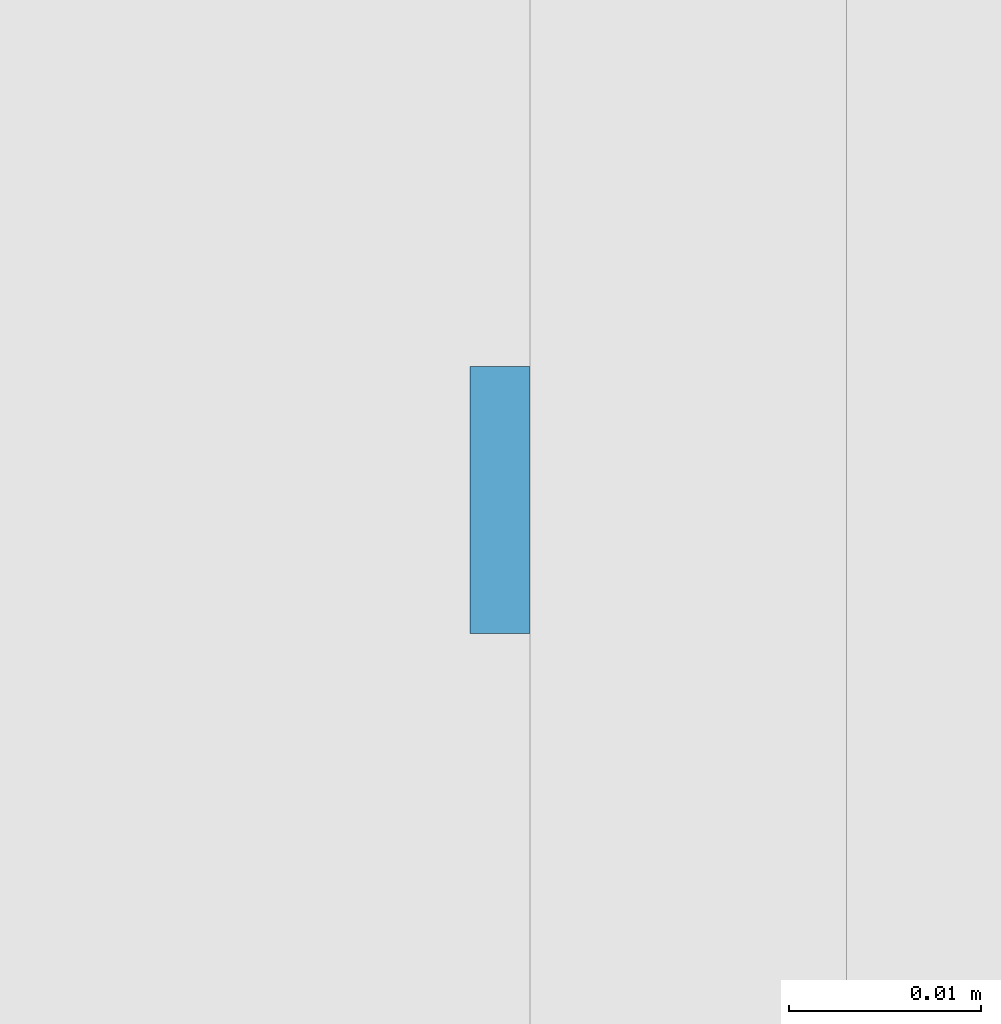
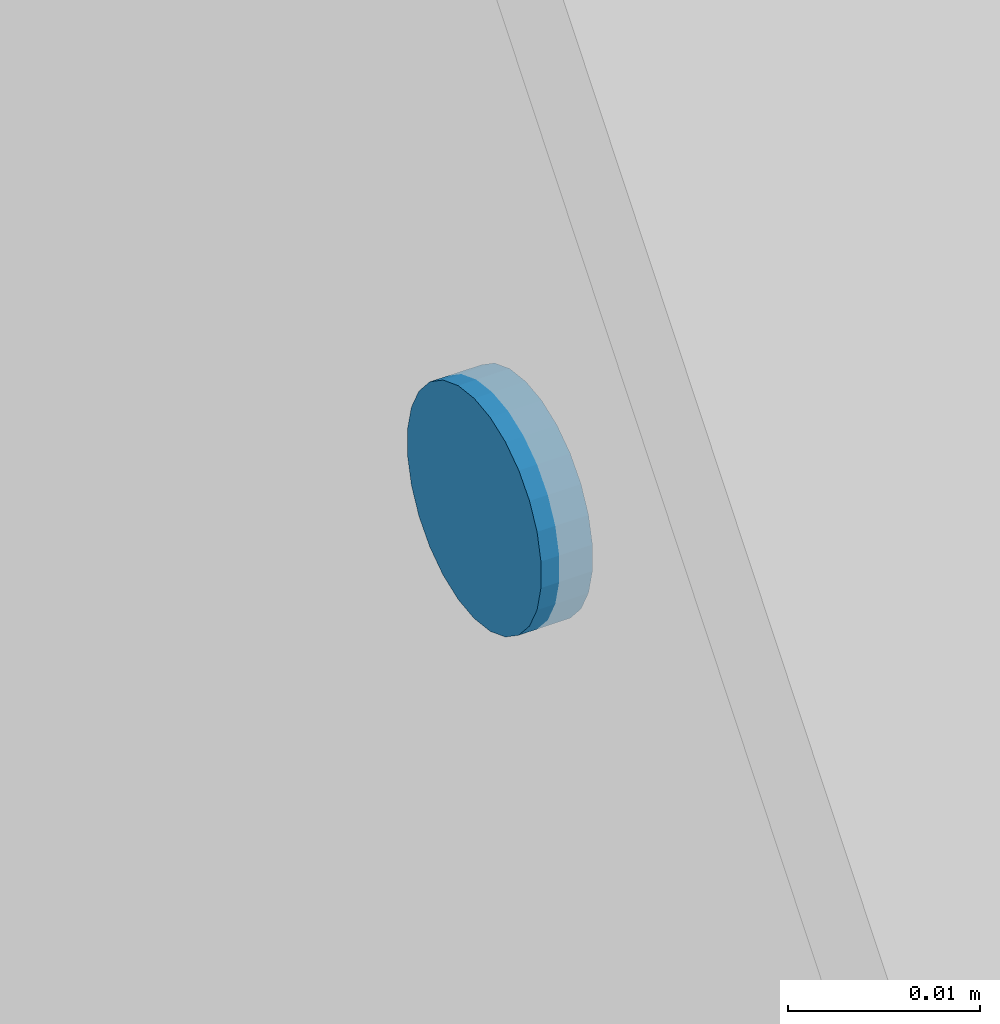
# One storey, part 228 of 362: 1 mechanical fastener.
"""IFC2X3 building model written with IfcOpenShell, lengths in millimetres."""

import ifcopenshell
import ifcopenshell.guid

model = None  # the IFC model being written
_history = None  # IfcOwnerHistory: only IFC2X3 demands one
_inside = {}  # id of a spatial element -> (the spatial element, [elements in it])
_under = {}  # id of a project, library or spatial element -> (it, [spatial elements below it])
_declared = {}  # id of a project -> (the project, [libraries it declares])
_typed = {}  # id of a type object -> (the type object, [elements of that type])
_made_of = {}  # id of a material, layer set ... -> (it, [elements and type objects made of it])


def new_model(schema):
    """Start an empty IFC model of exactly this schema.

    Asked for "IFC4X3", IfcOpenShell would pick the latest addendum, in which some entities
    have other attributes; the version numbers below select the first issue.
    IFC2X3 requires an IfcOwnerHistory on every rooted entity: one is made here for all.
    """
    global model, _history
    if schema == "IFC4X3":
        model = ifcopenshell.file(schema_version=(4, 3, 0, 0))
    else:
        model = ifcopenshell.file(schema=schema)
    _inside.clear()
    _under.clear()
    _declared.clear()
    _typed.clear()
    _made_of.clear()
    _history = None
    if model.schema == "IFC2X3":
        org = make("IfcOrganization", Name="unknown")
        user = make(
            "IfcPersonAndOrganization",
            ThePerson=make("IfcPerson", FamilyName="unknown"),
            TheOrganization=org,
        )
        app = make(
            "IfcApplication",
            ApplicationDeveloper=org,
            Version="unknown",
            ApplicationFullName="unknown",
            ApplicationIdentifier="unknown",
        )
        _history = make(
            "IfcOwnerHistory",
            OwningUser=user,
            OwningApplication=app,
            ChangeAction="ADDED",
            CreationDate=0,
        )
    return model


def make(cls, **values):
    """One entity of the class cls with the attributes given. An attribute that is None is left unset."""
    return model.create_entity(
        cls, **{name: value for name, value in values.items() if value is not None}
    )


def rooted(cls, **values):
    """An entity with a GlobalId (a new one), such as an element, a storey or a relation."""
    return make(cls, GlobalId=ifcopenshell.guid.new(), OwnerHistory=_history, **values)


def si_unit(unit_type, name, prefix=None):
    """IfcSIUnit, for example si_unit("LENGTHUNIT", "METRE", prefix="MILLI")."""
    return make("IfcSIUnit", UnitType=unit_type, Prefix=prefix, Name=name)


def assignment(units):
    """IfcUnitAssignment: the units of a project."""
    return None if units is None else make("IfcUnitAssignment", Units=units)


def point(xyz):
    """IfcCartesianPoint."""
    return None if xyz is None else make("IfcCartesianPoint", Coordinates=xyz)


def direction(xyz):
    """IfcDirection."""
    return None if xyz is None else make("IfcDirection", DirectionRatios=xyz)


def frame(location, z_axis=None, x_axis=None):
    """IfcAxis2Placement3D, a coordinate frame: its origin and axes. An axis left out is left unset."""
    return make(
        "IfcAxis2Placement3D",
        Location=point(location),
        Axis=direction(z_axis),
        RefDirection=direction(x_axis),
    )


def frame_2d(location, x_axis=None):
    """IfcAxis2Placement2D, a coordinate frame in the plane: its origin and x axis."""
    return make(
        "IfcAxis2Placement2D", Location=point(location), RefDirection=direction(x_axis)
    )


def origin_with_axes():
    """The frame at (0, 0, 0) with the z axis (0, 0, 1) and the x axis (1, 0, 0) written out."""
    return frame((0.0, 0.0, 0.0), z_axis=(0.0, 0.0, 1.0), x_axis=(1.0, 0.0, 0.0))


def origin_2d_with_axis():
    """The frame at (0, 0) in the plane with the x axis (1, 0) written out."""
    return frame_2d((0.0, 0.0), x_axis=(1.0, 0.0))


def place(relative_to, where):
    """IfcLocalPlacement: puts the frame where relative to a parent placement (None: the world)."""
    return make(
        "IfcLocalPlacement", PlacementRelTo=relative_to, RelativePlacement=where
    )


def context(
    kind, dimensions, precision=None, world=None, true_north=None, identifier=None
):
    """IfcGeometricRepresentationContext, for example the 3D "Model" context."""
    return make(
        "IfcGeometricRepresentationContext",
        ContextIdentifier=identifier,
        ContextType=kind,
        CoordinateSpaceDimension=dimensions,
        Precision=precision,
        WorldCoordinateSystem=world,
        TrueNorth=true_north,
    )


def subcontext(parent, identifier, kind, view, scale=None):
    """IfcGeometricRepresentationSubContext, for example "Body" below "Model"."""
    return make(
        "IfcGeometricRepresentationSubContext",
        ContextIdentifier=identifier,
        ContextType=kind,
        ParentContext=parent,
        TargetScale=scale,
        TargetView=view,
    )


def project(units=None, contexts=None):
    """IfcProject with its units and contexts."""
    return rooted(
        "IfcProject",
        Name="project",
        RepresentationContexts=contexts,
        UnitsInContext=assignment(units),
    )


def spatial(cls, under=None, at=None, **own):
    """A site, building, storey or space (cls), placed at a placement, below another one or the project."""
    s = rooted(cls, ObjectPlacement=at, **own)
    if under is not None:
        _under.setdefault(under.id(), (under, []))[1].append(s)
    return s


def profile(cls, at=None, kind="AREA", **sizes):
    """A parametric profile (cls). Its sizes go by their IFC names, for example OverallWidth=200.0."""
    return make(cls, ProfileType=kind, Position=at, **sizes)


def circle(**sizes):
    """IfcCircleProfileDef."""
    return profile("IfcCircleProfileDef", **sizes)


def extrude(swept, where, along, depth):
    """IfcExtrudedAreaSolid: the profile swept, set in the frame where, extruded along a direction by depth."""
    return make(
        "IfcExtrudedAreaSolid",
        SweptArea=swept,
        Position=where,
        ExtrudedDirection=direction(along),
        Depth=depth,
    )


def shape(context_of_items, identifier, shape_type, items):
    """IfcShapeRepresentation: the items that make up one representation, for example the "Body"."""
    return make(
        "IfcShapeRepresentation",
        ContextOfItems=context_of_items,
        RepresentationIdentifier=identifier,
        RepresentationType=shape_type,
        Items=items,
    )


def source(mapping_origin, context_of_items, identifier, shape_type, items):
    """IfcRepresentationMap: a shape defined once, which mapped items show again and again."""
    return make(
        "IfcRepresentationMap",
        MappingOrigin=mapping_origin,
        MappedRepresentation=shape(context_of_items, identifier, shape_type, items),
    )


def transform(
    local_origin,
    x_axis=None,
    y_axis=None,
    z_axis=None,
    scale=None,
    scale2=None,
    scale3=None,
    uniform=True,
):
    """IfcCartesianTransformationOperator3D, or its non-uniform kind. x_axis, y_axis, z_axis: its Axis1, 2, 3."""
    if uniform:
        return make(
            "IfcCartesianTransformationOperator3D",
            Axis1=direction(x_axis),
            Axis2=direction(y_axis),
            LocalOrigin=point(local_origin),
            Scale=scale,
            Axis3=direction(z_axis),
        )
    return make(
        "IfcCartesianTransformationOperator3DnonUniform",
        Axis1=direction(x_axis),
        Axis2=direction(y_axis),
        LocalOrigin=point(local_origin),
        Scale=scale,
        Axis3=direction(z_axis),
        Scale2=scale2,
        Scale3=scale3,
    )


def mapped(mapping_source, mapping_target):
    """IfcMappedItem: shows the shape of a source again, moved by a transform."""
    return make(
        "IfcMappedItem", MappingSource=mapping_source, MappingTarget=mapping_target
    )


def material(Name=None, Category=None):
    """IfcMaterial."""
    return make("IfcMaterial", Name=Name, Category=Category)


def made_of(thing, what):
    """Note that an element or type object is made of a material, layer set ...; save() writes the relation."""
    if what is not None:
        _made_of.setdefault(what.id(), (what, []))[1].append(thing)
    return thing


def type_object(cls, material=None, **own):
    """A type object (cls), such as IfcWallType, which elements share."""
    return made_of(rooted(cls, **own), material)


def element(
    cls,
    number,
    at=None,
    inside=None,
    cuts=None,
    type_object=None,
    material=None,
    context=None,
    identifier="Body",
    shape_type=None,
    held_by="IfcProductDefinitionShape",
    body=None,
    shapes=None,
    **own,
):
    """One element of the class cls, such as IfcWall. Its Tag is "e" and its number.

    at: its placement. inside: the storey or other place that contains it. cuts: it is an
    opening in that element (IfcRelVoidsElement). A single representation is given by context,
    identifier, shape_type and body (its items); several are given by shapes. held_by: the class
    of the entity that holds the representations. save() writes the other relations.
    """
    e = rooted(cls, Tag="e%d" % number, ObjectPlacement=at, **own)
    if body is not None:
        shapes = [shape(context, identifier, shape_type, body)]
    if shapes is not None:
        e.Representation = make(held_by, Representations=shapes)
    if inside is not None:
        _inside.setdefault(inside.id(), (inside, []))[1].append(e)
    if cuts is not None:
        rooted(
            "IfcRelVoidsElement", RelatingBuildingElement=cuts, RelatedOpeningElement=e
        )
    if type_object is not None:
        _typed.setdefault(type_object.id(), (type_object, []))[1].append(e)
    return made_of(e, material)


def aggregate(whole, parts):
    """IfcRelAggregates: a whole, such as a stair, and the parts it consists of."""
    return rooted("IfcRelAggregates", RelatingObject=whole, RelatedObjects=parts)


def save(model, path):
    """Write the relations noted so far, then the file.

    IfcRelAggregates (storeys below a building ...), IfcRelContainedInSpatialStructure (elements
    in a storey), IfcRelDefinesByType, IfcRelAssociatesMaterial and IfcRelDeclares: one each for
    every whole, place, type object, material and project.
    """
    for whole, parts in _under.values():
        aggregate(whole, parts)
    for where, things in _inside.values():
        rooted(
            "IfcRelContainedInSpatialStructure",
            RelatedElements=things,
            RelatingStructure=where,
        )
    for kind, things in _typed.values():
        rooted("IfcRelDefinesByType", RelatedObjects=things, RelatingType=kind)
    for what, things in _made_of.values():
        rooted("IfcRelAssociatesMaterial", RelatedObjects=things, RelatingMaterial=what)
    for by, libraries in _declared.values():
        rooted("IfcRelDeclares", RelatingContext=by, RelatedDefinitions=libraries)
    model.write(path)


model = new_model("IFC2X3")

# Units and contexts
model_context = context("Model", 3, precision=1e-05, world=origin_with_axes())
body_context = subcontext(model_context, "Body", "Model", "MODEL_VIEW")
ifc_project = project(units=[si_unit("LENGTHUNIT", "METRE", prefix="MILLI"), si_unit("AREAUNIT", "SQUARE_METRE"), si_unit("VOLUMEUNIT", "CUBIC_METRE"), si_unit("MASSUNIT", "GRAM", prefix="KILO"), si_unit("TIMEUNIT", "SECOND"), si_unit("PLANEANGLEUNIT", "RADIAN"), si_unit("SOLIDANGLEUNIT", "STERADIAN"), si_unit("THERMODYNAMICTEMPERATUREUNIT", "DEGREE_CELSIUS"), si_unit("LUMINOUSINTENSITYUNIT", "LUMEN")], contexts=[model_context])

# Site, building, storey
site_placement = place(None, origin_with_axes())
site = spatial("IfcSite", under=ifc_project, at=site_placement, Name="Undefined", CompositionType="ELEMENT")
building_placement = place(site_placement, origin_with_axes())
building = spatial("IfcBuilding", under=site, at=building_placement, Name="Undefined", CompositionType="ELEMENT")
storey_placement = place(building_placement, origin_with_axes())
storey = spatial("IfcBuildingStorey", under=building, at=storey_placement, Name="Undefined", CompositionType="ELEMENT", Elevation=0.0)

# Mechanical fastener
ifc_material = material(Name="6.8")
mechanical_fastener_type = type_object("IfcMechanicalFastenerType", Name="Bolt assembly")
shared_shape = source(origin_with_axes(), body_context, "Body", "SweptSolid", [
    extrude(circle(Radius=7.0, at=origin_2d_with_axis()), frame((0.0, 0.0, 0.0), z_axis=(0.0, 1.0, 0.0), x_axis=(1.0, 0.0, 0.0)), (0.0, 0.0, 1.0), 3.1),
])
mechanical_fastener_placement = place(storey_placement, frame((12613.4999989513, 5699.99999584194, 12543.8320725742), z_axis=(0.0, -1.0, 0.0), x_axis=(0.0, 0.0, 1.0)))
element("IfcMechanicalFastener", 1, at=mechanical_fastener_placement, inside=storey, type_object=mechanical_fastener_type, material=ifc_material, Name="Bolt assembly", NominalDiameter=12.0, NominalLength=3.0, context=body_context, shape_type="MappedRepresentation", body=[
    mapped(shared_shape, transform((0.0, 0.0, 0.0))),
])

save(model, "model.ifc")
